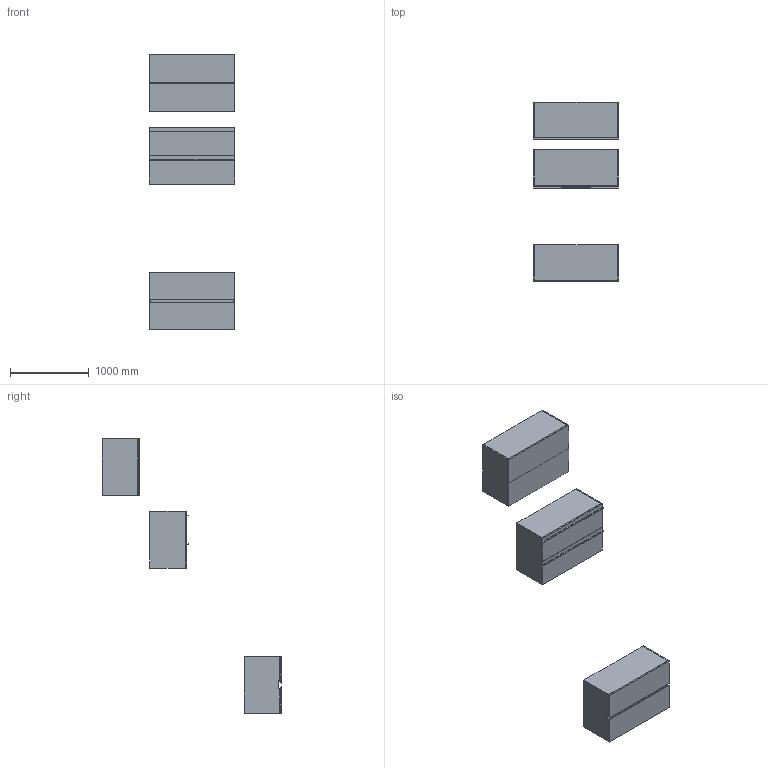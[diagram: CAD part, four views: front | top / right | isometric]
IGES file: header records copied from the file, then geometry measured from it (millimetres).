
Start section: Data from Parasolid IGES Translator 19.0.9, Copyright(c) 2006 Siemens PL M Software. All Rights Reserved.
Global section: file name: noorth-SI-H 72 D 47 W 108_8618.igs; native system: By Siemens PLM Incorporated; preprocessor: XPlus GENERIC/IGES 19.0.9; author: Noname; organization: Noname; date: 20200601.120244; units: metre
Bounding box: 1080 x 2270 x 3480.01 mm (x, y, z)
Volume: 126295313.6 mm3; surface area: 19665460.4 mm2
Topology: 24 solids, 24 shells, 248 faces, 544 edges, 324 vertices
Faces by surface type: plane 164, extrusion 36, bspline 32, cylinder 16
